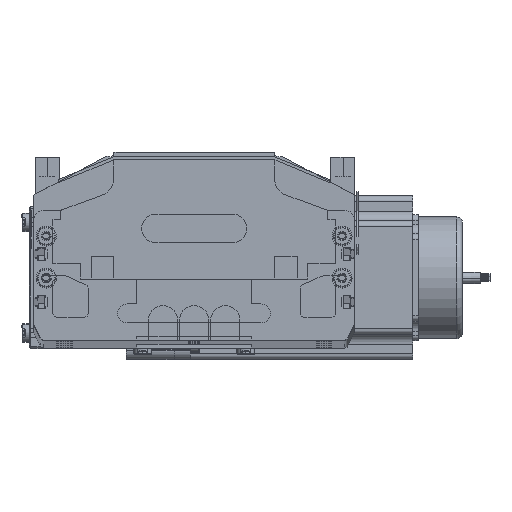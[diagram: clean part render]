
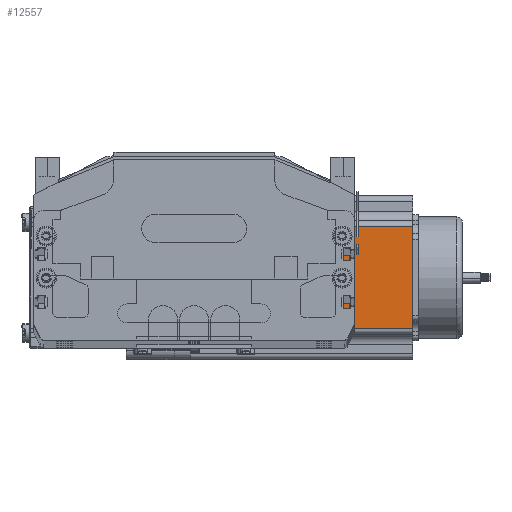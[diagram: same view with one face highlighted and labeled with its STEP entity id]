
A CAD part, top view. The second image highlights one B-rep face of the part: STEP entity #12557.
In plain terms, the highlighted planar face has unit normal (0, 0, 1) as drawn and (0, -1, 0) by its records, which use the part's own axes.
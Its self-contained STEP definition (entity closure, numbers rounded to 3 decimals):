
#12192 = EDGE_CURVE ( 'NONE', #12570, #12560, #80008, .T. ) ;
#12556 = ORIENTED_EDGE ( 'NONE', *, *, #12750, .F. ) ;
#12557 = ADVANCED_FACE ( 'NONE', ( #81698 ), #81705, .F. ) ;
#12560 = VERTEX_POINT ( 'NONE', #81703 ) ;
#12562 = VERTEX_POINT ( 'NONE', #81699 ) ;
#12564 = ORIENTED_EDGE ( 'NONE', *, *, #12568, .T. ) ;
#12568 = EDGE_CURVE ( 'NONE', #12560, #12562, #81674, .T. ) ;
#12570 = VERTEX_POINT ( 'NONE', #81683 ) ;
#12622 = ORIENTED_EDGE ( 'NONE', *, *, #12192, .T. ) ;
#12750 = EDGE_CURVE ( 'NONE', #12752, #12562, #82529, .T. ) ;
#12752 = VERTEX_POINT ( 'NONE', #82533 ) ;
#12757 = EDGE_CURVE ( 'NONE', #12752, #12570, #82689, .T. ) ;
#12817 = EDGE_LOOP ( 'NONE', ( #12622, #12564, #12556, #12818 ) ) ;
#12818 = ORIENTED_EDGE ( 'NONE', *, *, #12757, .T. ) ;
#80005 = CARTESIAN_POINT ( 'NONE',  ( 0., 0., 0. ) ) ;
#80008 = LINE ( 'NONE', #80005, #80123 ) ;
#80121 = DIRECTION ( 'NONE',  ( 1., 0., 0. ) ) ;
#80123 = VECTOR ( 'NONE', #80121, 1000. ) ;
#81671 = DIRECTION ( 'NONE',  ( 0., 0., 1. ) ) ;
#81672 = VECTOR ( 'NONE', #81671, 1000. ) ;
#81673 = CARTESIAN_POINT ( 'NONE',  ( 69.74, 0., 116.5 ) ) ;
#81674 = LINE ( 'NONE', #81673, #81672 ) ;
#81683 = CARTESIAN_POINT ( 'NONE',  ( 16.16, 0., 0. ) ) ;
#81687 = DIRECTION ( 'NONE',  ( 0., 1., 0. ) ) ;
#81689 = AXIS2_PLACEMENT_3D ( 'NONE', #81725, #81687, #81691 ) ;
#81691 = DIRECTION ( 'NONE',  ( 0., 0., 1. ) ) ;
#81698 = FACE_OUTER_BOUND ( 'NONE', #12817, .T. ) ;
#81699 = CARTESIAN_POINT ( 'NONE',  ( 69.74, 0., 116.5 ) ) ;
#81703 = CARTESIAN_POINT ( 'NONE',  ( 69.74, 0., 0. ) ) ;
#81705 = PLANE ( 'NONE',  #81689 ) ;
#81725 = CARTESIAN_POINT ( 'NONE',  ( 0., 0., 116.5 ) ) ;
#82529 = LINE ( 'NONE', #82693, #82692 ) ;
#82533 = CARTESIAN_POINT ( 'NONE',  ( 16.16, 0., 116.5 ) ) ;
#82689 = LINE ( 'NONE', #82775, #82774 ) ;
#82691 = DIRECTION ( 'NONE',  ( 1., 0., 0. ) ) ;
#82692 = VECTOR ( 'NONE', #82691, 1000. ) ;
#82693 = CARTESIAN_POINT ( 'NONE',  ( 0., 0., 116.5 ) ) ;
#82773 = DIRECTION ( 'NONE',  ( 0., 0., -1. ) ) ;
#82774 = VECTOR ( 'NONE', #82773, 1000. ) ;
#82775 = CARTESIAN_POINT ( 'NONE',  ( 16.16, 0., 116.5 ) ) ;
